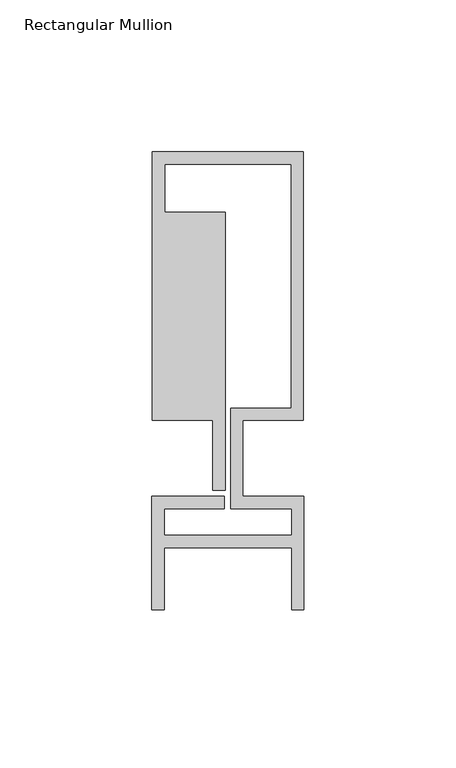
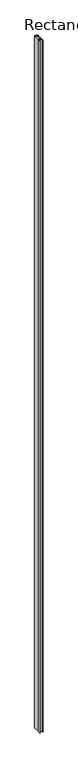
"""IFC4 building model written with IfcOpenShell, lengths in millimetres: member geometry, Rectangular Mullion : Reynaers_CW-50_Mullion-Transom_Horizontal_88.4mm_Facecap-03."""

from ifc_helpers import new_model, si_unit, frame, origin, place, context, project, spatial, polyline, outline, extrude, source, transform, mapped, element, save


def rectangular_mullion_9b6ecc9d(model_context):
    return source(origin(), model_context, "Body", "SweptSolid", [
        extrude(outline(polyline([(-24.8004059, 100.9), (24.8004059, 100.9), (24.8004059, 12.5), (4.9004059, 12.5), (4.9004059, -12.5), (24.994845, -12.5), (24.994845, -49.8), (20.994845, -49.8), (20.994845, -29.3268728), (-20.994845, -29.3268728), (-20.994845, -49.8), (-24.994845, -49.8), (-24.994845, -12.5), (-1.0995941, -12.5), (-1.0995941, -16.5), (-20.994845, -16.5), (-20.994845, -25.3268728), (20.994845, -25.3268728), (20.994845, -16.5), (0.9004059, -16.5), (0.9004059, 16.5), (20.8004059, 16.5), (20.8004059, 96.9), (-20.8004059, 96.9), (-20.8004059, 81.0), (-0.9004059, 81.0), (-0.9004059, -10.5), (-4.9004059, -10.5), (-4.9004059, 12.5), (-24.8004059, 12.5), (-24.8004059, 100.9)])), frame((0.0, 0.0, -12000.0), z_axis=(0.0, 0.0, 1.0), x_axis=(1.0, 0.0, 0.0)), (0.0, 0.0, 1.0), 12000.0),
    ])


if __name__ == "__main__":
    model = new_model("IFC4")
    model_context = context("Model", 3, world=origin())
    ifc_project = project(units=[si_unit("LENGTHUNIT", "METRE", prefix="MILLI")], contexts=[model_context])
    site = spatial("IfcSite", under=ifc_project)
    building = spatial("IfcBuilding", under=site)
    placement = place(None, origin())
    rectangular_mullion_shape = rectangular_mullion_9b6ecc9d(model_context)
    element("IfcMember", 1, ObjectType="Rectangular Mullion : Reynaers_CW-50_Mullion-Transom_Horizontal_88.4mm_Facecap-03", at=placement, inside=building, context=model_context, shape_type="MappedRepresentation", body=[
        mapped(rectangular_mullion_shape, transform((0.0, 0.0, 0.0), x_axis=(1.0, 0.0, 0.0), y_axis=(0.0, 1.0, 0.0), z_axis=(0.0, 0.0, 1.0))),
    ])
    save(model, "model.ifc")
